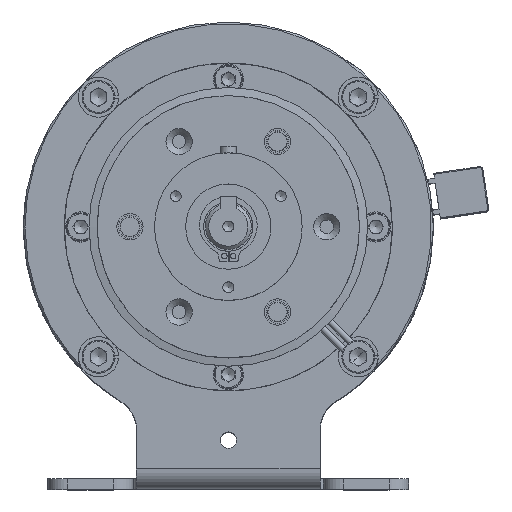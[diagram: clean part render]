
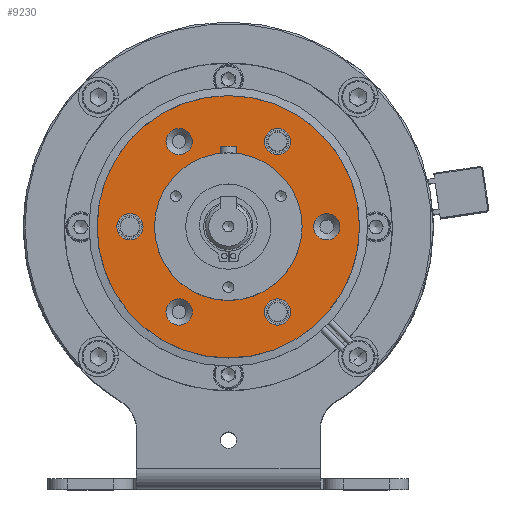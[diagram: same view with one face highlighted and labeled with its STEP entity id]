
A CAD part, top view. The second image highlights one B-rep face of the part: STEP entity #9230.
In plain terms, the highlighted planar face has unit normal (0, 0, 1).
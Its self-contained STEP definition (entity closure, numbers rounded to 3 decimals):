
#177 = EDGE_CURVE ( 'NONE', #5624, #5624, #31522, .T. ) ;
#246 = VERTEX_POINT ( 'NONE', #17785 ) ;
#604 = VERTEX_POINT ( 'NONE', #15907 ) ;
#1180 = AXIS2_PLACEMENT_3D ( 'NONE', #21476, #4042, #1316 ) ;
#1316 = DIRECTION ( 'NONE',  ( 0., -1., 0. ) ) ;
#2346 = DIRECTION ( 'NONE',  ( 0., 0., 1. ) ) ;
#2441 = EDGE_CURVE ( 'NONE', #14165, #14165, #8526, .T. ) ;
#2599 = DIRECTION ( 'NONE',  ( 0., -1., 0. ) ) ;
#2894 = EDGE_LOOP ( 'NONE', ( #22766 ) ) ;
#3922 = AXIS2_PLACEMENT_3D ( 'NONE', #10351, #27483, #10465 ) ;
#4042 = DIRECTION ( 'NONE',  ( 0., 0., 1. ) ) ;
#4359 = AXIS2_PLACEMENT_3D ( 'NONE', #21831, #4636, #33441 ) ;
#4636 = DIRECTION ( 'NONE',  ( 0., 0., -1. ) ) ;
#4981 = CARTESIAN_POINT ( 'NONE',  ( -33.464, 2., 82.75 ) ) ;
#5420 = AXIS2_PLACEMENT_3D ( 'NONE', #15387, #12251, #18274 ) ;
#5624 = VERTEX_POINT ( 'NONE', #36069 ) ;
#5756 = AXIS2_PLACEMENT_3D ( 'NONE', #26910, #29888, #15763 ) ;
#5786 = CARTESIAN_POINT ( 'NONE',  ( 30., 4., 82.75 ) ) ;
#6159 = EDGE_LOOP ( 'NONE', ( #22794 ) ) ;
#6557 = AXIS2_PLACEMENT_3D ( 'NONE', #25707, #10925, #28062 ) ;
#8131 = DIRECTION ( 'NONE',  ( 0., 0., 1. ) ) ;
#8526 = CIRCLE ( 'NONE', #5420, 4. ) ;
#8554 = CIRCLE ( 'NONE', #6557, 4. ) ;
#8830 = EDGE_CURVE ( 'NONE', #246, #246, #14195, .T. ) ;
#9142 = ORIENTED_EDGE ( 'NONE', *, *, #2441, .T. ) ;
#9230 = ADVANCED_FACE ( 'NONE', ( #31636, #28932, #12400, #13307, #27637, #20071, #24967, #34349 ), #32510, .F. ) ;
#10014 = AXIS2_PLACEMENT_3D ( 'NONE', #25283, #8131, #13900 ) ;
#10137 = CARTESIAN_POINT ( 'NONE',  ( 0., -40., 82.75 ) ) ;
#10284 = DIRECTION ( 'NONE',  ( 0.866, 0.5, 0. ) ) ;
#10351 = CARTESIAN_POINT ( 'NONE',  ( -30., 0., 82.75 ) ) ;
#10465 = DIRECTION ( 'NONE',  ( -0.866, 0.5, 0. ) ) ;
#10769 = CARTESIAN_POINT ( 'NONE',  ( 15., -29.981, 82.75 ) ) ;
#10925 = DIRECTION ( 'NONE',  ( 0., 0., -1. ) ) ;
#11105 = CARTESIAN_POINT ( 'NONE',  ( 0., 0., 82.75 ) ) ;
#12251 = DIRECTION ( 'NONE',  ( 0., 0., -1. ) ) ;
#12400 = FACE_BOUND ( 'NONE', #32986, .T. ) ;
#13307 = FACE_BOUND ( 'NONE', #21842, .T. ) ;
#13411 = DIRECTION ( 'NONE',  ( 0., 0., 1. ) ) ;
#13900 = DIRECTION ( 'NONE',  ( 0., -1., 0. ) ) ;
#13953 = AXIS2_PLACEMENT_3D ( 'NONE', #21553, #13411, #10284 ) ;
#14158 = CIRCLE ( 'NONE', #10014, 4. ) ;
#14165 = VERTEX_POINT ( 'NONE', #5786 ) ;
#14195 = CIRCLE ( 'NONE', #13953, 4. ) ;
#14722 = ORIENTED_EDGE ( 'NONE', *, *, #32308, .F. ) ;
#15387 = CARTESIAN_POINT ( 'NONE',  ( 30., 0., 82.75 ) ) ;
#15763 = DIRECTION ( 'NONE',  ( 0., 1., 0. ) ) ;
#15907 = CARTESIAN_POINT ( 'NONE',  ( -15., 29.981, 82.75 ) ) ;
#16533 = ORIENTED_EDGE ( 'NONE', *, *, #177, .T. ) ;
#17477 = ORIENTED_EDGE ( 'NONE', *, *, #30065, .F. ) ;
#17785 = CARTESIAN_POINT ( 'NONE',  ( 18.464, 27.981, 82.75 ) ) ;
#18051 = VERTEX_POINT ( 'NONE', #22407 ) ;
#18274 = DIRECTION ( 'NONE',  ( 0., 1., 0. ) ) ;
#19643 = EDGE_LOOP ( 'NONE', ( #17477 ) ) ;
#19654 = CIRCLE ( 'NONE', #29148, 40. ) ;
#19895 = VERTEX_POINT ( 'NONE', #4981 ) ;
#20071 = FACE_BOUND ( 'NONE', #19643, .T. ) ;
#21476 = CARTESIAN_POINT ( 'NONE',  ( 0., 0., 82.75 ) ) ;
#21553 = CARTESIAN_POINT ( 'NONE',  ( 15., 25.981, 82.75 ) ) ;
#21831 = CARTESIAN_POINT ( 'NONE',  ( -15., -25.981, 82.75 ) ) ;
#21842 = EDGE_LOOP ( 'NONE', ( #14722 ) ) ;
#22407 = CARTESIAN_POINT ( 'NONE',  ( 0., -22.5, 82.75 ) ) ;
#22766 = ORIENTED_EDGE ( 'NONE', *, *, #8830, .F. ) ;
#22794 = ORIENTED_EDGE ( 'NONE', *, *, #30333, .F. ) ;
#24967 = FACE_BOUND ( 'NONE', #6159, .T. ) ;
#25283 = CARTESIAN_POINT ( 'NONE',  ( 15., -25.981, 82.75 ) ) ;
#25705 = VERTEX_POINT ( 'NONE', #10769 ) ;
#25707 = CARTESIAN_POINT ( 'NONE',  ( -15., 25.981, 82.75 ) ) ;
#26003 = EDGE_LOOP ( 'NONE', ( #36679 ) ) ;
#26910 = CARTESIAN_POINT ( 'NONE',  ( 40., 0., 82.75 ) ) ;
#27109 = EDGE_CURVE ( 'NONE', #604, #604, #8554, .T. ) ;
#27483 = DIRECTION ( 'NONE',  ( 0., 0., 1. ) ) ;
#27637 = FACE_BOUND ( 'NONE', #2894, .T. ) ;
#28062 = DIRECTION ( 'NONE',  ( 0., 1., 0. ) ) ;
#28432 = CIRCLE ( 'NONE', #1180, 22.5 ) ;
#28583 = EDGE_CURVE ( 'NONE', #31506, #31506, #19654, .T. ) ;
#28932 = FACE_BOUND ( 'NONE', #30742, .T. ) ;
#29148 = AXIS2_PLACEMENT_3D ( 'NONE', #11105, #2346, #2599 ) ;
#29888 = DIRECTION ( 'NONE',  ( 0., 0., -1. ) ) ;
#29982 = EDGE_LOOP ( 'NONE', ( #16533 ) ) ;
#30065 = EDGE_CURVE ( 'NONE', #25705, #25705, #14158, .T. ) ;
#30139 = ORIENTED_EDGE ( 'NONE', *, *, #27109, .T. ) ;
#30333 = EDGE_CURVE ( 'NONE', #18051, #18051, #28432, .T. ) ;
#30742 = EDGE_LOOP ( 'NONE', ( #30139 ) ) ;
#31506 = VERTEX_POINT ( 'NONE', #10137 ) ;
#31522 = CIRCLE ( 'NONE', #4359, 4. ) ;
#31636 = FACE_BOUND ( 'NONE', #29982, .T. ) ;
#32308 = EDGE_CURVE ( 'NONE', #19895, #19895, #32796, .T. ) ;
#32510 = PLANE ( 'NONE',  #5756 ) ;
#32796 = CIRCLE ( 'NONE', #3922, 4. ) ;
#32986 = EDGE_LOOP ( 'NONE', ( #9142 ) ) ;
#33441 = DIRECTION ( 'NONE',  ( 0., 1., 0. ) ) ;
#34349 = FACE_OUTER_BOUND ( 'NONE', #26003, .T. ) ;
#36069 = CARTESIAN_POINT ( 'NONE',  ( -15., -21.981, 82.75 ) ) ;
#36679 = ORIENTED_EDGE ( 'NONE', *, *, #28583, .T. ) ;
